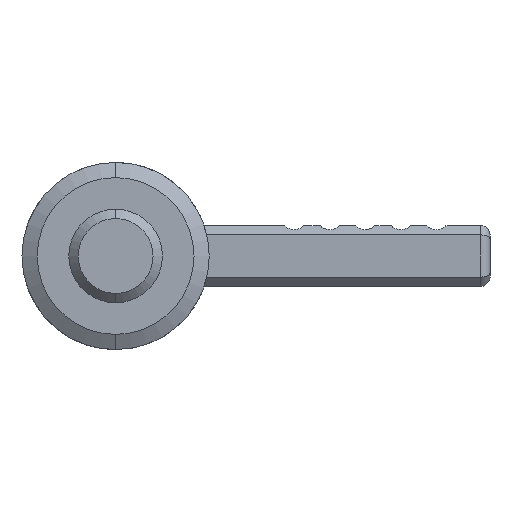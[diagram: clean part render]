
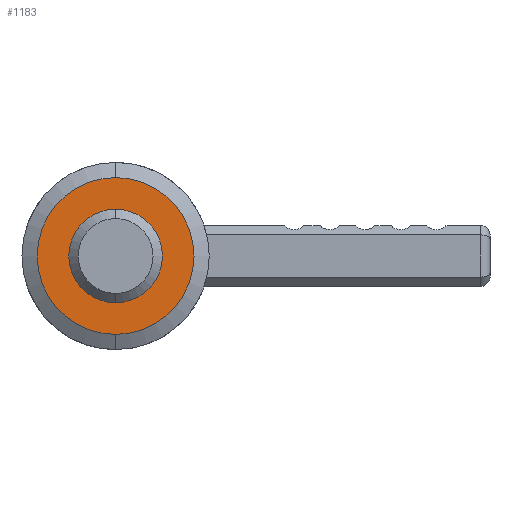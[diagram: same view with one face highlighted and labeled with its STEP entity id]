
A CAD part, front view. The second image highlights one B-rep face of the part: STEP entity #1183.
In plain terms, the highlighted planar face has unit normal (0, -1, 0).
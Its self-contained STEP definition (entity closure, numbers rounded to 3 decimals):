
#87 = VERTEX_POINT ( 'NONE', #500 ) ;
#134 = EDGE_CURVE ( 'NONE', #4592, #87, #552, .T. ) ;
#500 = CARTESIAN_POINT ( 'NONE',  ( 0., 0., -4. ) ) ;
#549 = DIRECTION ( 'NONE',  ( 0., 0., -1. ) ) ;
#550 = DIRECTION ( 'NONE',  ( 0., -1., 0. ) ) ;
#551 = AXIS2_PLACEMENT_3D ( 'NONE', #556, #550, #549 ) ;
#552 = CIRCLE ( 'NONE', #551, 4. ) ;
#556 = CARTESIAN_POINT ( 'NONE',  ( 0., 0., 0. ) ) ;
#1117 = EDGE_LOOP ( 'NONE', ( #1176, #1170 ) ) ;
#1158 = ORIENTED_EDGE ( 'NONE', *, *, #134, .F. ) ;
#1162 = EDGE_CURVE ( 'NONE', #87, #4592, #2507, .T. ) ;
#1163 = EDGE_LOOP ( 'NONE', ( #1166, #1158 ) ) ;
#1166 = ORIENTED_EDGE ( 'NONE', *, *, #1162, .F. ) ;
#1170 = ORIENTED_EDGE ( 'NONE', *, *, #4593, .T. ) ;
#1176 = ORIENTED_EDGE ( 'NONE', *, *, #1177, .T. ) ;
#1177 = EDGE_CURVE ( 'NONE', #4577, #4582, #2498, .T. ) ;
#1183 = ADVANCED_FACE ( 'NONE', ( #2484, #2487 ), #2486, .F. ) ;
#2484 = FACE_OUTER_BOUND ( 'NONE', #1117, .T. ) ;
#2486 = PLANE ( 'NONE',  #2541 ) ;
#2487 = FACE_BOUND ( 'NONE', #1163, .T. ) ;
#2494 = DIRECTION ( 'NONE',  ( 0., 0., -1. ) ) ;
#2495 = DIRECTION ( 'NONE',  ( 0., -1., 0. ) ) ;
#2496 = CARTESIAN_POINT ( 'NONE',  ( 0., 0., 0. ) ) ;
#2497 = AXIS2_PLACEMENT_3D ( 'NONE', #2496, #2495, #2494 ) ;
#2498 = CIRCLE ( 'NONE', #2497, 6.701 ) ;
#2503 = DIRECTION ( 'NONE',  ( 0., 0., -1. ) ) ;
#2504 = DIRECTION ( 'NONE',  ( 0., -1., 0. ) ) ;
#2505 = CARTESIAN_POINT ( 'NONE',  ( 0., 0., 0. ) ) ;
#2506 = AXIS2_PLACEMENT_3D ( 'NONE', #2505, #2504, #2503 ) ;
#2507 = CIRCLE ( 'NONE', #2506, 4. ) ;
#2527 = DIRECTION ( 'NONE',  ( 0., 0., 1. ) ) ;
#2539 = DIRECTION ( 'NONE',  ( 0., 1., 0. ) ) ;
#2540 = CARTESIAN_POINT ( 'NONE',  ( -4., 0., 0. ) ) ;
#2541 = AXIS2_PLACEMENT_3D ( 'NONE', #2540, #2539, #2527 ) ;
#3985 = CARTESIAN_POINT ( 'NONE',  ( 0., 0., 6.701 ) ) ;
#4008 = CARTESIAN_POINT ( 'NONE',  ( 0., 0., 4. ) ) ;
#4042 = CARTESIAN_POINT ( 'NONE',  ( 0., 0., -6.701 ) ) ;
#4069 = DIRECTION ( 'NONE',  ( 0., 0., -1. ) ) ;
#4070 = DIRECTION ( 'NONE',  ( 0., -1., 0. ) ) ;
#4071 = CARTESIAN_POINT ( 'NONE',  ( 0., 0., 0. ) ) ;
#4072 = AXIS2_PLACEMENT_3D ( 'NONE', #4071, #4070, #4069 ) ;
#4073 = CIRCLE ( 'NONE', #4072, 6.701 ) ;
#4577 = VERTEX_POINT ( 'NONE', #3985 ) ;
#4582 = VERTEX_POINT ( 'NONE', #4042 ) ;
#4592 = VERTEX_POINT ( 'NONE', #4008 ) ;
#4593 = EDGE_CURVE ( 'NONE', #4582, #4577, #4073, .T. ) ;
